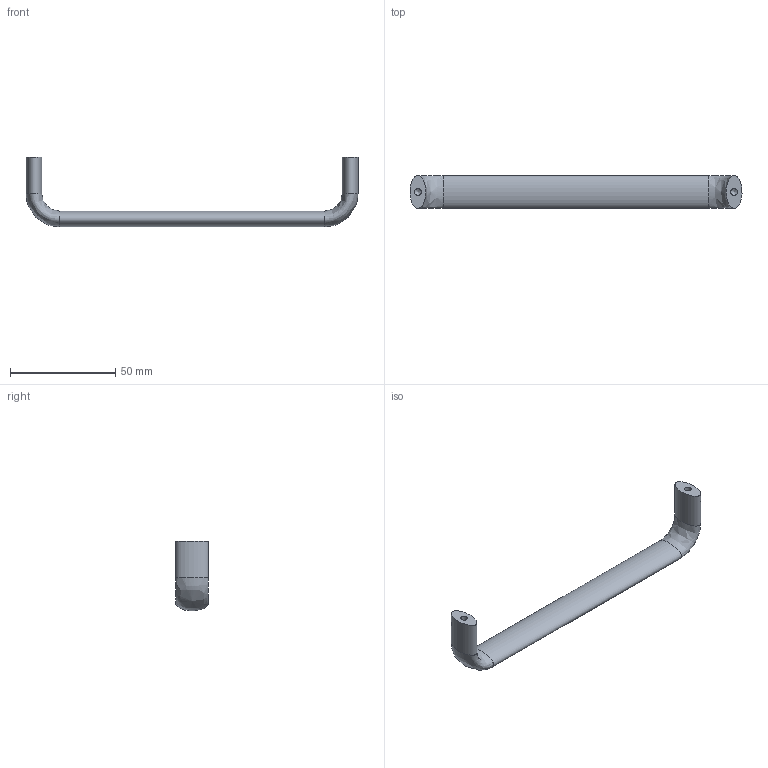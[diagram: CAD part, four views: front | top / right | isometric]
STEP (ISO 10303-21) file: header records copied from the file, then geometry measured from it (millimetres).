
FILE_DESCRIPTION(/* description */ (''),/* implementation_level */ '2;1');
FILE_NAME(/* name */ '\\NAS\db20\A-GA15-150\DR_A-GA15-150.stp',/* time_stamp */ '2017-07-11T08:32:27+09:00',/* author */ ('user'),/* organization */ (''),/* preprocessor_version */ 'ST-DEVELOPER v15.6',/* originating_system */ 'Autodesk Inventor 2015',/* authorisation */ '');
FILE_SCHEMA (('AUTOMOTIVE_DESIGN { 1 0 10303 214 3 1 1 }'));
Length unit declared in the file: millimetre
Products named in the file (1): DR_A-GA15-150
Bounding box: 157.45 x 15.5 x 32.98 mm (x, y, z)
Volume: 17954.3 mm3; surface area: 7728.9 mm2
Topology: 1 solids, 1 shells, 11 faces, 21 edges, 12 vertices
Faces by surface type: bspline 5, cone 2, cylinder 2, plane 2
Full cylindrical faces by diameter (mm): 3.242 x2
Entity records: 345 total; most frequent: CARTESIAN_POINT 143, DIRECTION 38, ORIENTED_EDGE 30, AXIS2_PLACEMENT_3D 19, EDGE_LOOP 15, EDGE_CURVE 15, FACE_OUTER_BOUND 11, ADVANCED_FACE 11
